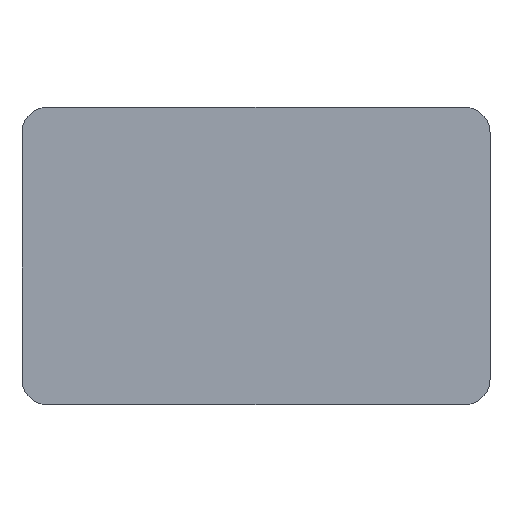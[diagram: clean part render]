
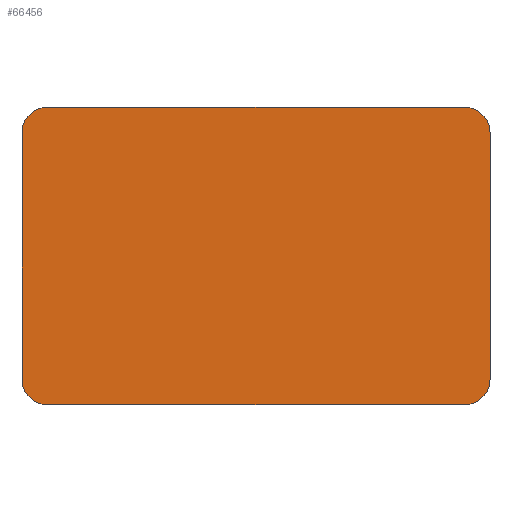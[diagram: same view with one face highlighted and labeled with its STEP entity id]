
A CAD part, top view. The second image highlights one B-rep face of the part: STEP entity #66456.
In plain terms, the highlighted planar face has unit normal (0, 0, 1).
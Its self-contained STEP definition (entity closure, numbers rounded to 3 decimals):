
#65670=CARTESIAN_POINT('',(-66.27,-4.951,-38.493));
#65671=DIRECTION('',(0.,0.,-1.));
#65672=DIRECTION('',(0.,-1.,0.));
#65673=AXIS2_PLACEMENT_3D('',#65670,#65671,#65672);
#65675=CARTESIAN_POINT('',(-66.27,0.849,-38.493));
#65676=DIRECTION('',(0.,0.,-1.));
#65677=DIRECTION('',(-1.,0.,0.));
#65678=AXIS2_PLACEMENT_3D('',#65675,#65676,#65677);
#65680=CARTESIAN_POINT('',(-56.47,0.849,-38.493));
#65681=DIRECTION('',(0.,0.,-1.));
#65682=DIRECTION('',(0.,1.,0.));
#65683=AXIS2_PLACEMENT_3D('',#65680,#65681,#65682);
#65685=CARTESIAN_POINT('',(-56.47,-4.951,-38.493));
#65686=DIRECTION('',(0.,0.,-1.));
#65687=DIRECTION('',(1.,0.,0.));
#65688=AXIS2_PLACEMENT_3D('',#65685,#65686,#65687);
#65694=DIRECTION('',(0.,-1.,0.));
#65695=VECTOR('',#65694,5.8);
#65696=CARTESIAN_POINT('',(-66.87,0.849,-38.493));
#65697=LINE('',#65696,#65695);
#65714=DIRECTION('',(-1.,0.,0.));
#65715=VECTOR('',#65714,9.8);
#65716=CARTESIAN_POINT('',(-56.47,1.449,-38.493));
#65717=LINE('',#65716,#65715);
#65730=DIRECTION('',(1.,0.,0.));
#65731=VECTOR('',#65730,9.8);
#65732=CARTESIAN_POINT('',(-66.27,-5.551,-38.493));
#65733=LINE('',#65732,#65731);
#65746=DIRECTION('',(0.,1.,0.));
#65747=VECTOR('',#65746,5.8);
#65748=CARTESIAN_POINT('',(-55.87,-4.951,-38.493));
#65749=LINE('',#65748,#65747);
#66170=CARTESIAN_POINT('',(-56.47,1.449,-38.493));
#66171=VERTEX_POINT('',#66170);
#66172=CARTESIAN_POINT('',(-55.87,0.849,-38.493));
#66173=VERTEX_POINT('',#66172);
#66174=CARTESIAN_POINT('',(-66.27,-5.551,-38.493));
#66175=CARTESIAN_POINT('',(-66.87,-4.951,-38.493));
#66176=VERTEX_POINT('',#66174);
#66177=VERTEX_POINT('',#66175);
#66178=CARTESIAN_POINT('',(-66.87,0.849,-38.493));
#66179=CARTESIAN_POINT('',(-66.27,1.449,-38.493));
#66180=VERTEX_POINT('',#66178);
#66181=VERTEX_POINT('',#66179);
#66182=CARTESIAN_POINT('',(-55.87,-4.951,-38.493));
#66183=CARTESIAN_POINT('',(-56.47,-5.551,-38.493));
#66184=VERTEX_POINT('',#66182);
#66185=VERTEX_POINT('',#66183);
#66434=CARTESIAN_POINT('',(-61.37,-2.051,-38.493));
#66435=DIRECTION('',(0.,0.,1.));
#66436=DIRECTION('',(1.,0.,0.));
#66437=AXIS2_PLACEMENT_3D('',#66434,#66435,#66436);
#66438=PLANE('',#66437);
#66440=ORIENTED_EDGE('',*,*,#66439,.T.);
#66442=ORIENTED_EDGE('',*,*,#66441,.F.);
#66444=ORIENTED_EDGE('',*,*,#66443,.T.);
#66446=ORIENTED_EDGE('',*,*,#66445,.F.);
#66447=ORIENTED_EDGE('',*,*,#66424,.T.);
#66449=ORIENTED_EDGE('',*,*,#66448,.F.);
#66451=ORIENTED_EDGE('',*,*,#66450,.T.);
#66453=ORIENTED_EDGE('',*,*,#66452,.F.);
#66454=EDGE_LOOP('',(#66440,#66442,#66444,#66446,#66447,#66449,#66451,#66453));
#66455=FACE_OUTER_BOUND('',#66454,.F.);
#65674=CIRCLE('',#65673,0.6);
#65679=CIRCLE('',#65678,0.6);
#65684=CIRCLE('',#65683,0.6);
#65689=CIRCLE('',#65688,0.6);
#66424=EDGE_CURVE('',#66171,#66173,#65684,.T.);
#66439=EDGE_CURVE('',#66176,#66177,#65674,.T.);
#66441=EDGE_CURVE('',#66180,#66177,#65697,.T.);
#66443=EDGE_CURVE('',#66180,#66181,#65679,.T.);
#66445=EDGE_CURVE('',#66171,#66181,#65717,.T.);
#66448=EDGE_CURVE('',#66184,#66173,#65749,.T.);
#66450=EDGE_CURVE('',#66184,#66185,#65689,.T.);
#66452=EDGE_CURVE('',#66176,#66185,#65733,.T.);
#66456=ADVANCED_FACE('',(#66455),#66438,.T.);
